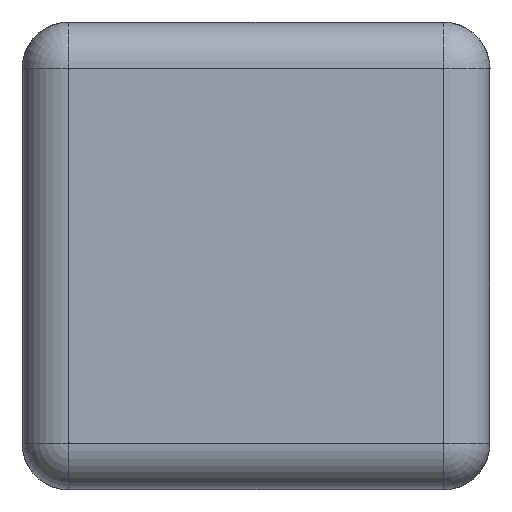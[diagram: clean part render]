
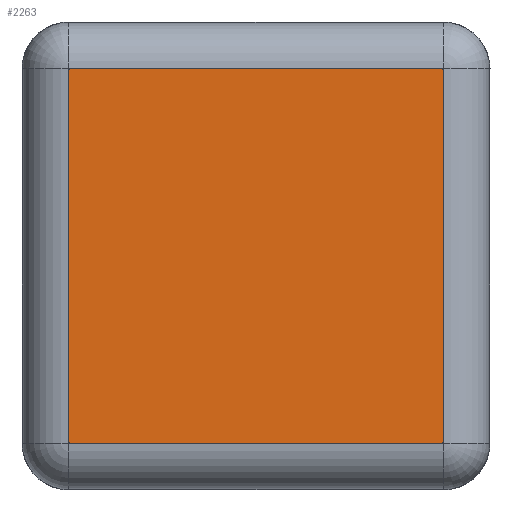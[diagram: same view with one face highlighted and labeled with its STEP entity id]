
A CAD part, top view. The second image highlights one B-rep face of the part: STEP entity #2263.
In plain terms, the highlighted planar face has unit normal (0, 0, 1).
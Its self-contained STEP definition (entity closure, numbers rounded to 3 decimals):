
#16 = VECTOR ( 'NONE', #2395, 1000. ) ;
#37 = ORIENTED_EDGE ( 'NONE', *, *, #186, .T. ) ;
#108 = VERTEX_POINT ( 'NONE', #1710 ) ;
#120 = VERTEX_POINT ( 'NONE', #1696 ) ;
#137 = VERTEX_POINT ( 'NONE', #2257 ) ;
#160 = LINE ( 'NONE', #2508, #2196 ) ;
#170 = EDGE_CURVE ( 'NONE', #2005, #1814, #915, .T. ) ;
#186 = EDGE_CURVE ( 'NONE', #2322, #2176, #1233, .T. ) ;
#192 = VERTEX_POINT ( 'NONE', #1171 ) ;
#213 = EDGE_CURVE ( 'NONE', #1003, #1802, #508, .T. ) ;
#230 = EDGE_CURVE ( 'NONE', #1814, #2351, #160, .T. ) ;
#265 = EDGE_CURVE ( 'NONE', #108, #1003, #1730, .T. ) ;
#275 = CARTESIAN_POINT ( 'NONE',  ( -11.963, 11.963, 0. ) ) ;
#278 = EDGE_CURVE ( 'NONE', #2351, #192, #1670, .T. ) ;
#295 = VECTOR ( 'NONE', #751, 1000. ) ;
#303 = VERTEX_POINT ( 'NONE', #1836 ) ;
#314 = LINE ( 'NONE', #359, #2204 ) ;
#315 = CARTESIAN_POINT ( 'NONE',  ( 12., -11.963, 0. ) ) ;
#359 = CARTESIAN_POINT ( 'NONE',  ( 12., -11.963, 0. ) ) ;
#402 = EDGE_CURVE ( 'NONE', #120, #2176, #994, .T. ) ;
#423 = ORIENTED_EDGE ( 'NONE', *, *, #402, .F. ) ;
#444 = ORIENTED_EDGE ( 'NONE', *, *, #265, .F. ) ;
#462 = CARTESIAN_POINT ( 'NONE',  ( 11.963, -12., 0. ) ) ;
#508 = B_SPLINE_CURVE_WITH_KNOTS ( 'NONE', 3,
 ( #721, #704, #573, #2540 ),
 .UNSPECIFIED., .F., .F.,
 ( 4, 4 ),
 ( 0., 1. ),
 .UNSPECIFIED. ) ;
#527 = CARTESIAN_POINT ( 'NONE',  ( 3.988, 12., 0. ) ) ;
#528 = EDGE_CURVE ( 'NONE', #2322, #137, #1654, .T. ) ;
#544 = DIRECTION ( 'NONE',  ( -1., 0., 0. ) ) ;
#573 = CARTESIAN_POINT ( 'NONE',  ( 12., -3.988, 0. ) ) ;
#574 = CARTESIAN_POINT ( 'NONE',  ( -11.963, 12., 0. ) ) ;
#598 = ORIENTED_EDGE ( 'NONE', *, *, #230, .F. ) ;
#647 = DIRECTION ( 'NONE',  ( 0., 1., 0. ) ) ;
#691 = CARTESIAN_POINT ( 'NONE',  ( 12., 11.963, 0. ) ) ;
#704 = CARTESIAN_POINT ( 'NONE',  ( 12., 3.988, 0. ) ) ;
#721 = CARTESIAN_POINT ( 'NONE',  ( 12., 11.963, 0. ) ) ;
#751 = DIRECTION ( 'NONE',  ( 1., 0., 0. ) ) ;
#805 = ORIENTED_EDGE ( 'NONE', *, *, #528, .F. ) ;
#832 = ORIENTED_EDGE ( 'NONE', *, *, #2435, .F. ) ;
#915 = LINE ( 'NONE', #1764, #1435 ) ;
#930 = CARTESIAN_POINT ( 'NONE',  ( -12., -3.988, 0. ) ) ;
#994 = LINE ( 'NONE', #1809, #1941 ) ;
#1003 = VERTEX_POINT ( 'NONE', #691 ) ;
#1100 = LINE ( 'NONE', #1112, #1577 ) ;
#1112 = CARTESIAN_POINT ( 'NONE',  ( -11.963, -11.963, 0. ) ) ;
#1158 = CARTESIAN_POINT ( 'NONE',  ( -11.963, 12., 0. ) ) ;
#1171 = CARTESIAN_POINT ( 'NONE',  ( 11.963, 12., 0. ) ) ;
#1209 = ORIENTED_EDGE ( 'NONE', *, *, #278, .F. ) ;
#1212 = CARTESIAN_POINT ( 'NONE',  ( -12., 11.963, 0. ) ) ;
#1222 = B_SPLINE_CURVE_WITH_KNOTS ( 'NONE', 3,
 ( #1340, #930, #1746, #2538 ),
 .UNSPECIFIED., .F., .F.,
 ( 4, 4 ),
 ( 0., 1. ),
 .UNSPECIFIED. ) ;
#1233 = B_SPLINE_CURVE_WITH_KNOTS ( 'NONE', 3,
 ( #2372, #1935, #1374, #1921 ),
 .UNSPECIFIED., .F., .F.,
 ( 4, 4 ),
 ( 0., 1. ),
 .UNSPECIFIED. ) ;
#1277 = ORIENTED_EDGE ( 'NONE', *, *, #213, .F. ) ;
#1314 = DIRECTION ( 'NONE',  ( 0., 0., -1. ) ) ;
#1322 = ORIENTED_EDGE ( 'NONE', *, *, #170, .F. ) ;
#1340 = CARTESIAN_POINT ( 'NONE',  ( -12., -11.963, 0. ) ) ;
#1346 = EDGE_CURVE ( 'NONE', #303, #2005, #1222, .T. ) ;
#1359 = FACE_OUTER_BOUND ( 'NONE', #1942, .T. ) ;
#1374 = CARTESIAN_POINT ( 'NONE',  ( 3.988, -12., 0. ) ) ;
#1421 = CARTESIAN_POINT ( 'NONE',  ( -11.963, 12., 0. ) ) ;
#1433 = VECTOR ( 'NONE', #647, 1000. ) ;
#1435 = VECTOR ( 'NONE', #1532, 1000. ) ;
#1497 = DIRECTION ( 'NONE',  ( 0., -1., 0. ) ) ;
#1529 = AXIS2_PLACEMENT_3D ( 'NONE', #574, #1314, #1765 ) ;
#1532 = DIRECTION ( 'NONE',  ( 1., 0., 0. ) ) ;
#1546 = DIRECTION ( 'NONE',  ( 0., 1., 0. ) ) ;
#1571 = CARTESIAN_POINT ( 'NONE',  ( 11.963, 12., 0. ) ) ;
#1577 = VECTOR ( 'NONE', #544, 1000. ) ;
#1597 = LINE ( 'NONE', #2001, #16 ) ;
#1654 = LINE ( 'NONE', #2453, #1433 ) ;
#1670 = B_SPLINE_CURVE_WITH_KNOTS ( 'NONE', 3,
 ( #1158, #2569, #527, #1571 ),
 .UNSPECIFIED., .F., .F.,
 ( 4, 4 ),
 ( 0., 1. ),
 .UNSPECIFIED. ) ;
#1696 = CARTESIAN_POINT ( 'NONE',  ( 11.963, -11.963, 0. ) ) ;
#1710 = CARTESIAN_POINT ( 'NONE',  ( 11.963, 11.963, 0. ) ) ;
#1730 = LINE ( 'NONE', #2522, #295 ) ;
#1731 = DIRECTION ( 'NONE',  ( -1., 0., 0. ) ) ;
#1746 = CARTESIAN_POINT ( 'NONE',  ( -12., 3.988, 0. ) ) ;
#1764 = CARTESIAN_POINT ( 'NONE',  ( 12., 11.963, 0. ) ) ;
#1765 = DIRECTION ( 'NONE',  ( -1., 0., 0. ) ) ;
#1802 = VERTEX_POINT ( 'NONE', #315 ) ;
#1809 = CARTESIAN_POINT ( 'NONE',  ( 11.963, 12., 0. ) ) ;
#1814 = VERTEX_POINT ( 'NONE', #275 ) ;
#1836 = CARTESIAN_POINT ( 'NONE',  ( -12., -11.963, 0. ) ) ;
#1876 = EDGE_CURVE ( 'NONE', #1802, #120, #1100, .T. ) ;
#1921 = CARTESIAN_POINT ( 'NONE',  ( 11.963, -12., 0. ) ) ;
#1935 = CARTESIAN_POINT ( 'NONE',  ( -3.988, -12., 0. ) ) ;
#1941 = VECTOR ( 'NONE', #1497, 1000. ) ;
#1942 = EDGE_LOOP ( 'NONE', ( #1322, #1964, #2266, #805, #37, #423, #2218, #1277, #444, #832, #1209, #598 ) ) ;
#1964 = ORIENTED_EDGE ( 'NONE', *, *, #1346, .F. ) ;
#2001 = CARTESIAN_POINT ( 'NONE',  ( 11.963, 12., 0. ) ) ;
#2005 = VERTEX_POINT ( 'NONE', #1212 ) ;
#2122 = CARTESIAN_POINT ( 'NONE',  ( -11.963, -12., 0. ) ) ;
#2176 = VERTEX_POINT ( 'NONE', #462 ) ;
#2196 = VECTOR ( 'NONE', #1546, 1000. ) ;
#2204 = VECTOR ( 'NONE', #1731, 1000. ) ;
#2218 = ORIENTED_EDGE ( 'NONE', *, *, #1876, .F. ) ;
#2257 = CARTESIAN_POINT ( 'NONE',  ( -11.963, -11.963, 0. ) ) ;
#2263 = ADVANCED_FACE ( 'NONE', ( #1359 ), #2357, .F. ) ;
#2266 = ORIENTED_EDGE ( 'NONE', *, *, #2310, .F. ) ;
#2310 = EDGE_CURVE ( 'NONE', #137, #303, #314, .T. ) ;
#2322 = VERTEX_POINT ( 'NONE', #2122 ) ;
#2351 = VERTEX_POINT ( 'NONE', #1421 ) ;
#2357 = PLANE ( 'NONE',  #1529 ) ;
#2372 = CARTESIAN_POINT ( 'NONE',  ( -11.963, -12., 0. ) ) ;
#2395 = DIRECTION ( 'NONE',  ( 0., -1., 0. ) ) ;
#2435 = EDGE_CURVE ( 'NONE', #192, #108, #1597, .T. ) ;
#2453 = CARTESIAN_POINT ( 'NONE',  ( -11.963, 12., 0. ) ) ;
#2508 = CARTESIAN_POINT ( 'NONE',  ( -11.963, 12., 0. ) ) ;
#2522 = CARTESIAN_POINT ( 'NONE',  ( -11.963, 11.963, 0. ) ) ;
#2538 = CARTESIAN_POINT ( 'NONE',  ( -12., 11.963, 0. ) ) ;
#2540 = CARTESIAN_POINT ( 'NONE',  ( 12., -11.963, 0. ) ) ;
#2569 = CARTESIAN_POINT ( 'NONE',  ( -3.988, 12., 0. ) ) ;
